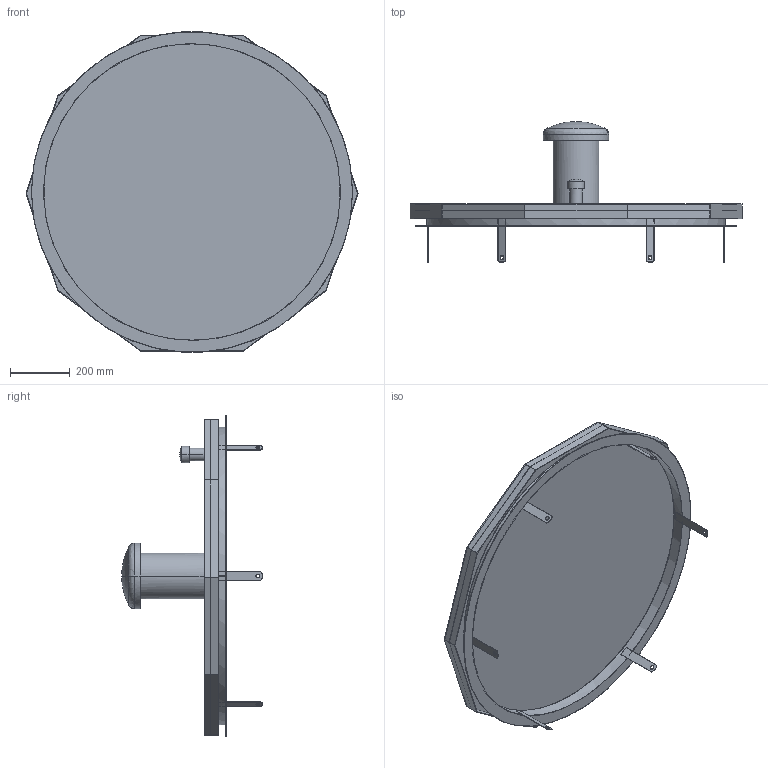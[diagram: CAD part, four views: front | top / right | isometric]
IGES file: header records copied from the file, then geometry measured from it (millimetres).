
Start section:  PTC IGES file: 017_000107.igs
Global section: file name: 017_000107.igs; native system: Creo Parametric by Parametric Technology Corporation; preprocessor: 2017170; author: wj; organization: Unknown; date: 20180906.124534; units: millimetre
Bounding box: 1112.45 x 471.25 x 1073.2 mm (x, y, z)
Surface area: 4683292.3 mm2 (no closed solid volume)
Topology: 0 solids, 0 shells, 108 faces, 572 edges, 568 vertices
Faces by surface type: bspline 70, revolution 38
